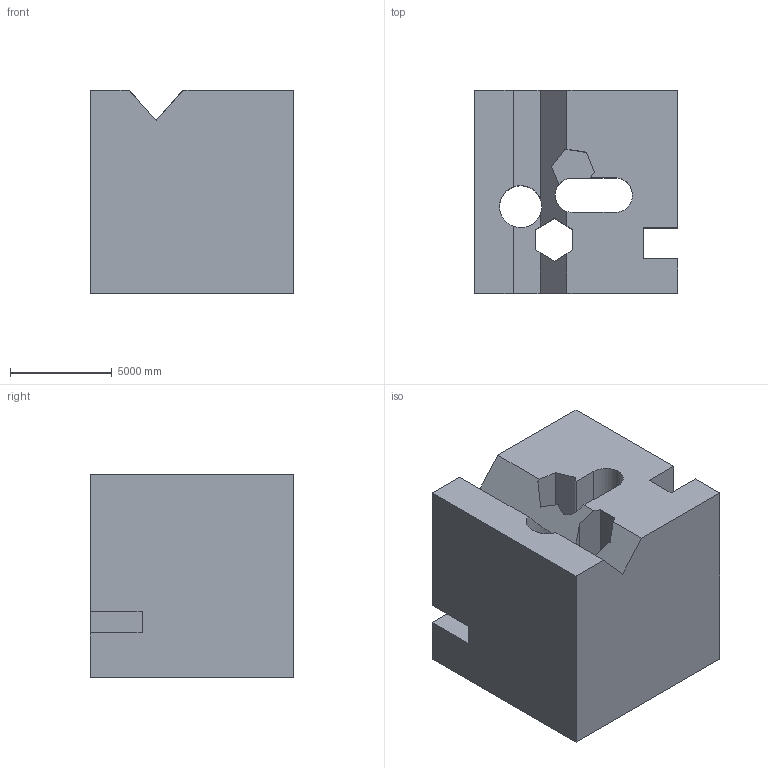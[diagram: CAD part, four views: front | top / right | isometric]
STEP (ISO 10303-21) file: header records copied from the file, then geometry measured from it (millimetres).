
FILE_DESCRIPTION (( 'STEP AP203' ), '1' );
FILE_NAME ('1688.STEP', '2022-08-19T11:44:21', ( 'user' ), ( '' ), 'SwSTEP 2.0', 'SolidWorks 2021', '' );
FILE_SCHEMA (( 'CONFIG_CONTROL_DESIGN' ));
Length unit declared in the file: centimetre
Products named in the file (1): 1688
Bounding box: 10000 x 10000 x 10000 mm (x, y, z)
Volume: 814210174751.6 mm3; surface area: 856583175.9 mm2
Topology: 1 solids, 1 shells, 38 faces, 117 edges, 78 vertices
Faces by surface type: plane 33, cylinder 5
Entity records: 1380 total; most frequent: CARTESIAN_POINT 252, ORIENTED_EDGE 234, DIRECTION 199, EDGE_CURVE 117, VECTOR 101, LINE 101, VERTEX_POINT 78, AXIS2_PLACEMENT_3D 49
